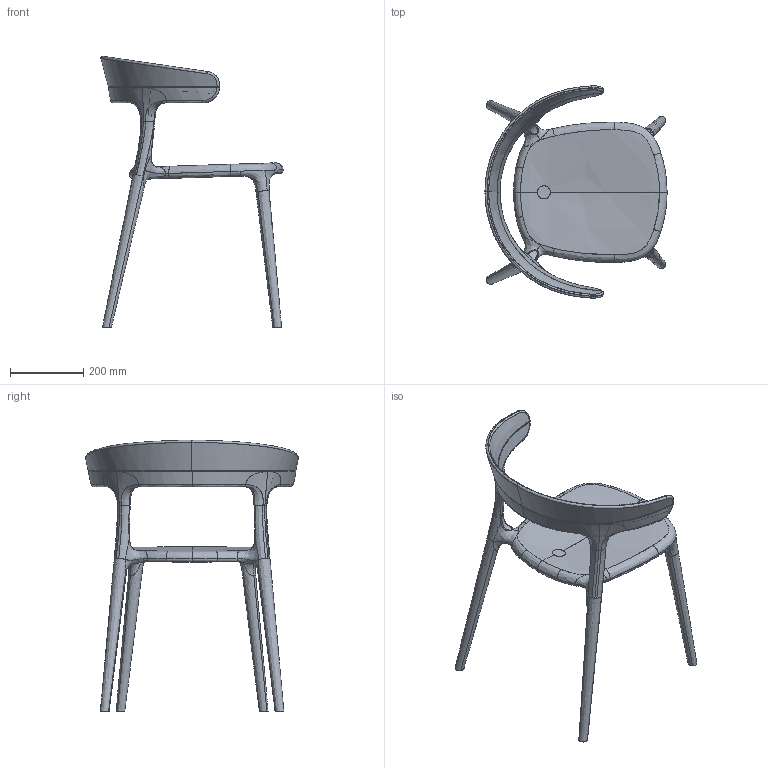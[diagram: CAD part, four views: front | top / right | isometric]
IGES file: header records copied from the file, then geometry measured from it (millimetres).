
Start section: SolidWorks IGES file using analytic representation for surfaces
Global section: file name: C:\Users\GrafikTest\Desktop\SW çizimler\3D Enjeksiyon Ürünler\3D_MODEL_LUNA\luna 3d.IGS; native system: SolidWorks 2015; preprocessor: SolidWorks 2015; author: GrafikTest; date: 150504.112157; units: millimetre
Bounding box: 498.11 x 580.38 x 742.14 mm (x, y, z)
Surface area: 849014.1 mm2 (no closed solid volume)
Topology: 0 solids, 0 shells, 416 faces, 8034 edges, 8018 vertices
Faces by surface type: bspline 416
